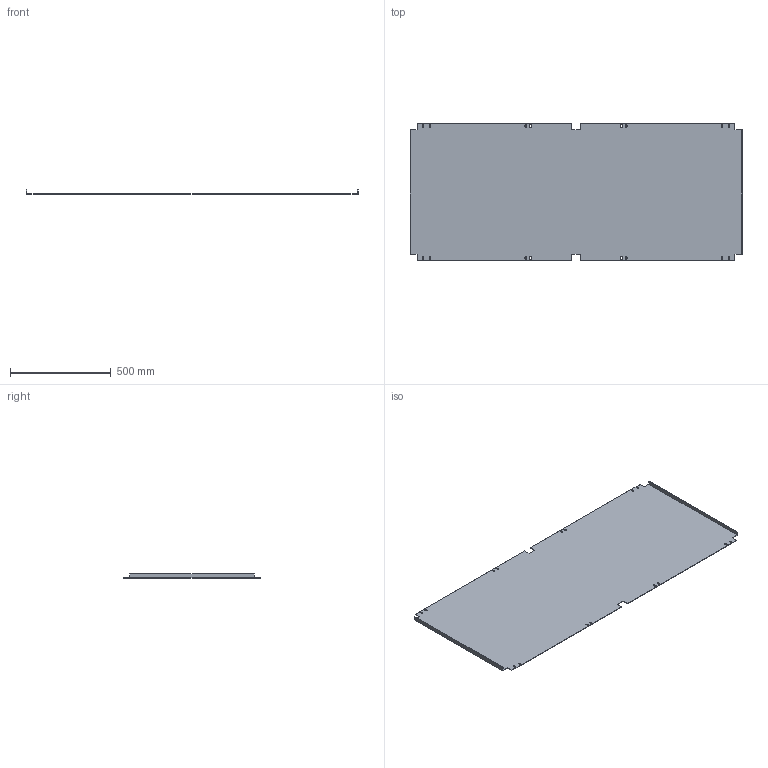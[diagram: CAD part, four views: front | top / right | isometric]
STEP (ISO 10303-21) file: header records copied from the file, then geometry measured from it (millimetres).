
FILE_DESCRIPTION(('Open CASCADE Model'),'2;1');
FILE_NAME('Open CASCADE Shape Model','2025-02-13T17:36:47',('Author'),( 'Open CASCADE'),'Open CASCADE STEP processor 7.8','Open CASCADE 7.8' ,'Unknown');
FILE_SCHEMA(('AUTOMOTIVE_DESIGN { 1 0 10303 214 1 1 1 1 }'));
Length unit declared in the file: millimetre
Products named in the file (1): Solid1
Bounding box: 1650 x 680 x 20 mm (x, y, z)
Volume: 2839250.6 mm3; surface area: 2284965.1 mm2
Topology: 1 solids, 1 shells, 98 faces, 288 edges, 192 vertices
Faces by surface type: plane 66, cylinder 32
Entity records: 3330 total; most frequent: CARTESIAN_POINT 579, ORIENTED_EDGE 576, DIRECTION 550, EDGE_CURVE 288, LINE 224, VECTOR 224, VERTEX_POINT 192, AXIS2_PLACEMENT_3D 163
